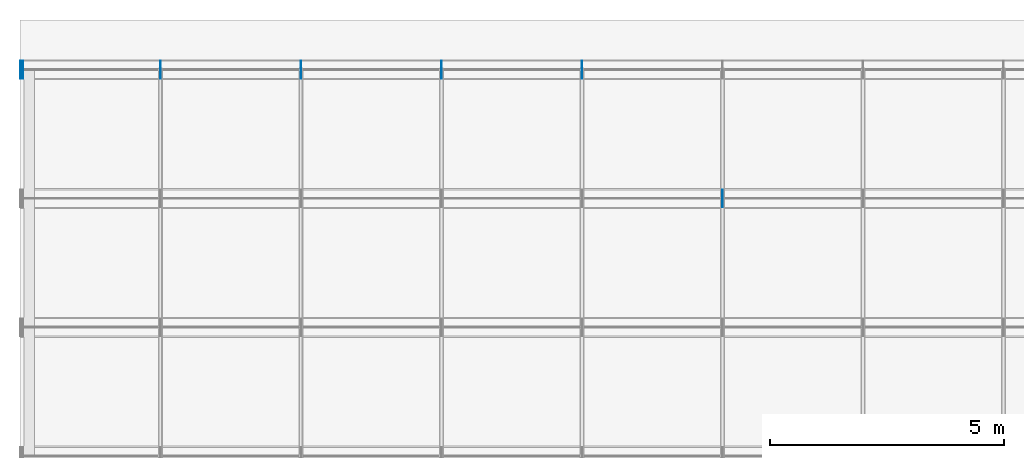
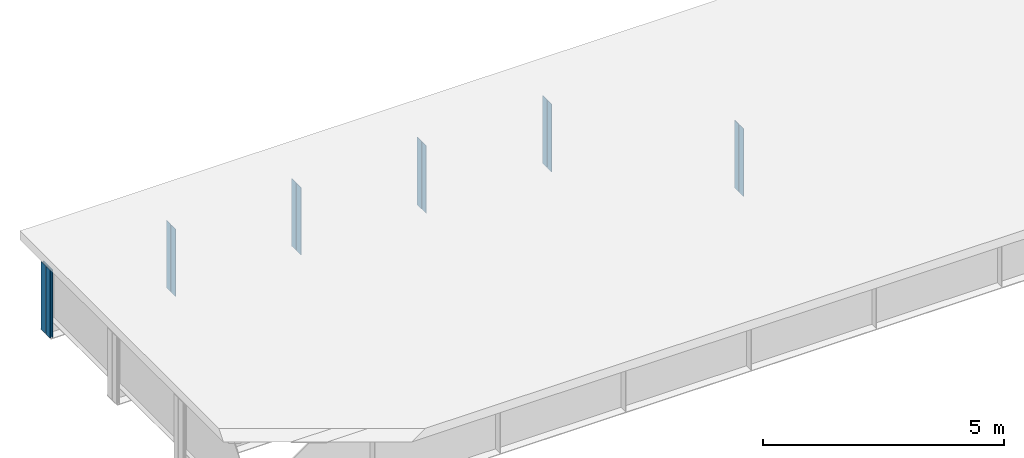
# One storey, part 8 of 11: 14 plates.
"""IFC4 building model written with IfcOpenShell, lengths in metres."""

from ifc_helpers import new_model, si_unit, frame, origin, origin_with_axes, origin_2d_with_axis, place, context, subcontext, project, spatial, rectangle, extrude, element, save


model = new_model("IFC4")

# Units and contexts
model_context = context("Model", 3, precision=1e-05, world=origin())
body_context = subcontext(model_context, "Body", "Model", "MODEL_VIEW")
ifc_project = project(units=[si_unit("LENGTHUNIT", "METRE"), si_unit("AREAUNIT", "SQUARE_METRE"), si_unit("VOLUMEUNIT", "CUBIC_METRE"), si_unit("PLANEANGLEUNIT", "RADIAN")], contexts=[model_context])

# Site, building, storey
site_placement = place(None, origin_with_axes())
site = spatial("IfcSite", under=ifc_project, at=site_placement, Name="Default Site")
building_placement = place(site_placement, origin_with_axes())
building = spatial("IfcBuilding", under=site, at=building_placement, Name="Bridge Structure")
storey_placement = place(building_placement, origin_with_axes())
storey = spatial("IfcBuildingStorey", under=building, at=storey_placement, Name="Superstructure")

# Plates
for number, where, z_axis, x_axis, name in (
    (1, (15.0, 1.47325, -0.855), (0.0, 0.0, 1.0), (1.0, 0.0, 0.0), "Intermediate Stiffener 3"),
    (2, (15.0, 1.27675, -0.855), (0.0, 0.0, 1.0), (1.0, 0.0, 0.0), "Intermediate Stiffener 3"),
    (3, (3.0, 4.22325, -0.855), (0.0, 0.0, 1.0), (1.0, 0.0, 0.0), "Intermediate Stiffener 4"),
    (4, (3.0, 4.02675, -0.855), (0.0, 0.0, 1.0), (1.0, 0.0, 0.0), "Intermediate Stiffener 4"),
    (5, (6.0, 4.22325, -0.855), (0.0, 0.0, 1.0), (1.0, 0.0, 0.0), "Intermediate Stiffener 4"),
    (6, (6.0, 4.02675, -0.855), (0.0, 0.0, 1.0), (1.0, 0.0, 0.0), "Intermediate Stiffener 4"),
    (7, (9.0, 4.22325, -0.855), (0.0, 0.0, 1.0), (1.0, 0.0, 0.0), "Intermediate Stiffener 4"),
    (8, (9.0, 4.02675, -0.855), (0.0, 0.0, 1.0), (1.0, 0.0, 0.0), "Intermediate Stiffener 4"),
    (9, (12.0, 4.22325, -0.855), (0.0, 0.0, 1.0), (1.0, 0.0, 0.0), "Intermediate Stiffener 4"),
    (10, (12.0, 4.02675, -0.855), (0.0, 0.0, 1.0), (1.0, 0.0, 0.0), "Intermediate Stiffener 4"),
):
    element("IfcPlate", number, at=place(storey_placement, frame(where, z_axis=z_axis, x_axis=x_axis)), inside=storey, Name=name, context=body_context, shape_type="SweptSolid", body=[
        extrude(rectangle(XDim=0.012, YDim=0.1785, at=origin_2d_with_axis()), origin_with_axes(), (0.0, 0.0, 1.0), 1.71),
    ])
for number, where, z_axis, x_axis, name in (
    (11, (0.01, 4.22325, -0.855), (0.0, 0.0, 1.0), (1.0, 0.0, 0.0), "End Stiffener 4"),
    (12, (0.01, 4.02675, -0.855), (0.0, 0.0, 1.0), (1.0, 0.0, 0.0), "End Stiffener 4"),
    (13, (0.06, 4.22325, -0.855), (0.0, 0.0, 1.0), (1.0, 0.0, 0.0), "End Stiffener 4"),
    (14, (0.06, 4.02675, -0.855), (0.0, 0.0, 1.0), (1.0, 0.0, 0.0), "End Stiffener 4"),
):
    element("IfcPlate", number, at=place(storey_placement, frame(where, z_axis=z_axis, x_axis=x_axis)), inside=storey, Name=name, context=body_context, shape_type="SweptSolid", body=[
        extrude(rectangle(XDim=0.02, YDim=0.1785, at=origin_2d_with_axis()), origin_with_axes(), (0.0, 0.0, 1.0), 1.71),
    ])

save(model, "model.ifc")
